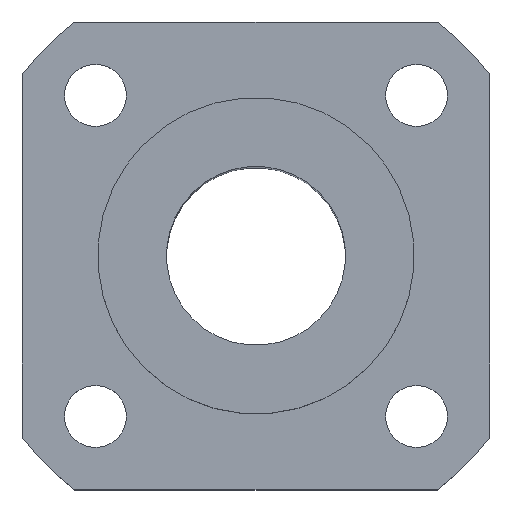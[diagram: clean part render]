
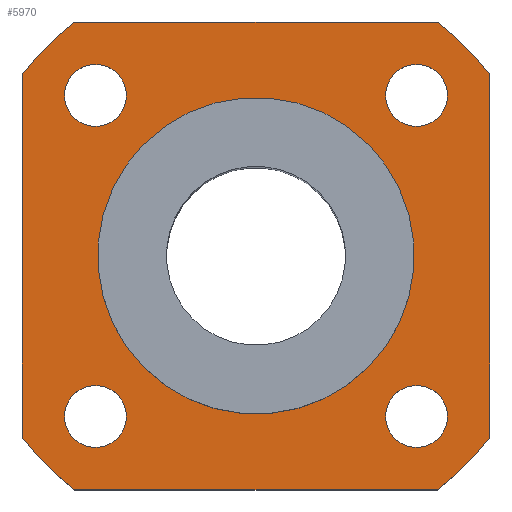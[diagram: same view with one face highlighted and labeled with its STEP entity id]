
A CAD part, top view. The second image highlights one B-rep face of the part: STEP entity #5970.
In plain terms, the highlighted planar face has unit normal (0, 0, 1).
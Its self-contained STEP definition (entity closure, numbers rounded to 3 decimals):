
#114=CIRCLE('',#6331,21.5);
#115=CIRCLE('',#6333,21.5);
#116=CIRCLE('',#6335,21.5);
#126=CIRCLE('',#6351,11.5);
#130=CIRCLE('',#6359,21.5);
#131=CIRCLE('',#6361,2.25);
#132=CIRCLE('',#6362,2.25);
#133=CIRCLE('',#6363,2.25);
#134=CIRCLE('',#6364,2.25);
#569=ORIENTED_EDGE('',*,*,#2288,.F.);
#570=ORIENTED_EDGE('',*,*,#2268,.T.);
#571=ORIENTED_EDGE('',*,*,#2289,.F.);
#572=ORIENTED_EDGE('',*,*,#2271,.T.);
#573=ORIENTED_EDGE('',*,*,#2290,.F.);
#574=ORIENTED_EDGE('',*,*,#2287,.T.);
#575=ORIENTED_EDGE('',*,*,#2291,.F.);
#576=ORIENTED_EDGE('',*,*,#2264,.T.);
#577=ORIENTED_EDGE('',*,*,#2292,.F.);
#578=ORIENTED_EDGE('',*,*,#2293,.F.);
#579=ORIENTED_EDGE('',*,*,#2294,.F.);
#580=ORIENTED_EDGE('',*,*,#2295,.F.);
#581=ORIENTED_EDGE('',*,*,#2281,.T.);
#2264=EDGE_CURVE('',#3128,#3127,#114,.T.);
#2268=EDGE_CURVE('',#3129,#3130,#115,.T.);
#2271=EDGE_CURVE('',#3131,#3132,#116,.T.);
#2281=EDGE_CURVE('',#3142,#3142,#126,.F.);
#2287=EDGE_CURVE('',#3146,#3147,#130,.T.);
#2288=EDGE_CURVE('',#3129,#3127,#3654,.T.);
#2289=EDGE_CURVE('',#3131,#3130,#3655,.T.);
#2290=EDGE_CURVE('',#3146,#3132,#3656,.T.);
#2291=EDGE_CURVE('',#3128,#3147,#3657,.T.);
#2292=EDGE_CURVE('',#3148,#3148,#131,.T.);
#2293=EDGE_CURVE('',#3149,#3149,#132,.T.);
#2294=EDGE_CURVE('',#3150,#3150,#133,.T.);
#2295=EDGE_CURVE('',#3151,#3151,#134,.T.);
#3127=VERTEX_POINT('',#9405);
#3128=VERTEX_POINT('',#9407);
#3129=VERTEX_POINT('',#9411);
#3130=VERTEX_POINT('',#9413);
#3131=VERTEX_POINT('',#9417);
#3132=VERTEX_POINT('',#9419);
#3142=VERTEX_POINT('',#9446);
#3146=VERTEX_POINT('',#9458);
#3147=VERTEX_POINT('',#9460);
#3148=VERTEX_POINT('',#9468);
#3149=VERTEX_POINT('',#9470);
#3150=VERTEX_POINT('',#9472);
#3151=VERTEX_POINT('',#9474);
#3654=LINE('',#9463,#4354);
#3655=LINE('',#9464,#4355);
#3656=LINE('',#9465,#4356);
#3657=LINE('',#9466,#4357);
#4354=VECTOR('',#6939,1000.);
#4355=VECTOR('',#6940,1000.);
#4356=VECTOR('',#6941,1000.);
#4357=VECTOR('',#6942,1000.);
#4909=EDGE_LOOP('',(#569,#570,#571,#572,#573,#574,#575,#576));
#4910=EDGE_LOOP('',(#577));
#4911=EDGE_LOOP('',(#578));
#4912=EDGE_LOOP('',(#579));
#4913=EDGE_LOOP('',(#580));
#4914=EDGE_LOOP('',(#581));
#5333=FACE_BOUND('',#4909,.T.);
#5334=FACE_BOUND('',#4910,.T.);
#5335=FACE_BOUND('',#4911,.T.);
#5336=FACE_BOUND('',#4912,.T.);
#5337=FACE_BOUND('',#4913,.T.);
#5338=FACE_BOUND('',#4914,.T.);
#5697=PLANE('',#6360);
#5970=ADVANCED_FACE('',(#5333,#5334,#5335,#5336,#5337,#5338),#5697,.T.);
#6331=AXIS2_PLACEMENT_3D('',#9406,#6872,#6873);
#6333=AXIS2_PLACEMENT_3D('',#9414,#6879,#6880);
#6335=AXIS2_PLACEMENT_3D('',#9420,#6885,#6886);
#6351=AXIS2_PLACEMENT_3D('',#9445,#6917,#6918);
#6359=AXIS2_PLACEMENT_3D('',#9461,#6935,#6936);
#6360=AXIS2_PLACEMENT_3D('',#9462,#6937,#6938);
#6361=AXIS2_PLACEMENT_3D('',#9467,#6943,#6944);
#6362=AXIS2_PLACEMENT_3D('',#9469,#6945,#6946);
#6363=AXIS2_PLACEMENT_3D('',#9471,#6947,#6948);
#6364=AXIS2_PLACEMENT_3D('',#9473,#6949,#6950);
#6872=DIRECTION('',(0.,0.,1.));
#6873=DIRECTION('',(0.707,-0.707,0.));
#6879=DIRECTION('',(0.,0.,1.));
#6880=DIRECTION('',(0.707,-0.707,0.));
#6885=DIRECTION('',(0.,0.,1.));
#6886=DIRECTION('',(0.707,-0.707,0.));
#6917=DIRECTION('',(0.,0.,1.));
#6918=DIRECTION('',(0.707,-0.707,0.));
#6935=DIRECTION('',(0.,0.,1.));
#6936=DIRECTION('',(0.707,-0.707,0.));
#6937=DIRECTION('',(0.,0.,1.));
#6938=DIRECTION('',(0.707,-0.707,0.));
#6939=DIRECTION('',(1.,0.,0.));
#6940=DIRECTION('',(0.,1.,0.));
#6941=DIRECTION('',(-1.,0.,0.));
#6942=DIRECTION('',(0.,-1.,0.));
#6943=DIRECTION('',(0.,0.,1.));
#6944=DIRECTION('',(0.707,-0.707,0.));
#6945=DIRECTION('',(0.,0.,1.));
#6946=DIRECTION('',(0.707,-0.707,0.));
#6947=DIRECTION('',(0.,0.,1.));
#6948=DIRECTION('',(0.707,-0.707,0.));
#6949=DIRECTION('',(0.,0.,1.));
#6950=DIRECTION('',(0.707,-0.707,0.));
#9405=CARTESIAN_POINT('',(13.162,17.,0.));
#9406=CARTESIAN_POINT('',(0.,0.,0.));
#9407=CARTESIAN_POINT('',(17.,13.162,0.));
#9411=CARTESIAN_POINT('',(-13.162,17.,0.));
#9413=CARTESIAN_POINT('',(-17.,13.162,0.));
#9414=CARTESIAN_POINT('',(0.,0.,0.));
#9417=CARTESIAN_POINT('',(-17.,-13.162,0.));
#9419=CARTESIAN_POINT('',(-13.162,-17.,0.));
#9420=CARTESIAN_POINT('',(0.,0.,0.));
#9445=CARTESIAN_POINT('',(0.,0.,0.));
#9446=CARTESIAN_POINT('',(8.132,-8.132,0.));
#9458=CARTESIAN_POINT('',(13.162,-17.,0.));
#9460=CARTESIAN_POINT('',(17.,-13.162,0.));
#9461=CARTESIAN_POINT('',(0.,0.,0.));
#9462=CARTESIAN_POINT('',(0.,0.,0.));
#9463=CARTESIAN_POINT('',(13.162,17.,0.));
#9464=CARTESIAN_POINT('',(-17.,-13.162,0.));
#9465=CARTESIAN_POINT('',(-13.162,-17.,0.));
#9466=CARTESIAN_POINT('',(17.,13.162,0.));
#9467=CARTESIAN_POINT('',(11.667,11.667,0.));
#9468=CARTESIAN_POINT('',(13.258,10.076,0.));
#9469=CARTESIAN_POINT('',(-11.667,11.667,0.));
#9470=CARTESIAN_POINT('',(-10.076,10.076,0.));
#9471=CARTESIAN_POINT('',(-11.667,-11.667,0.));
#9472=CARTESIAN_POINT('',(-10.076,-13.258,0.));
#9473=CARTESIAN_POINT('',(11.667,-11.667,0.));
#9474=CARTESIAN_POINT('',(13.258,-13.258,0.));
